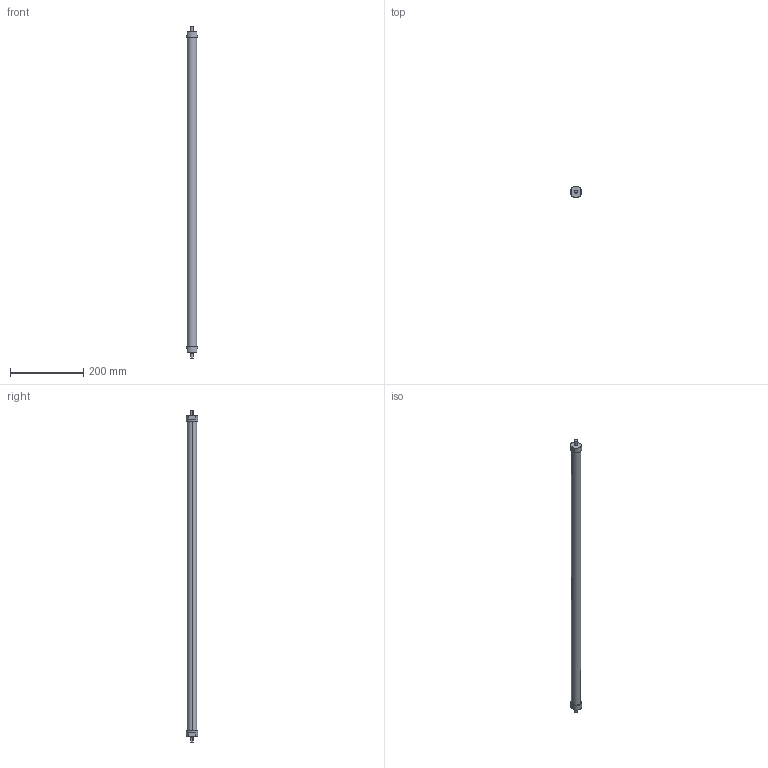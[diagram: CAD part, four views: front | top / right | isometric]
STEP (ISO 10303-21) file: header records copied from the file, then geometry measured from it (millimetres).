
FILE_DESCRIPTION(('STEP AP214'),'1');
FILE_NAME('ETT-R050N884.stp','2015-07-20T08:02:22',(' '),(' '),'Spatial InterOp 3D',' ',' ');
FILE_SCHEMA(('automotive_design'));
Length unit declared in the file: metre
Products named in the file (3): 1; 3; 2
Bounding box: 31 x 31 x 904 mm (x, y, z)
Volume: 437303.6 mm3; surface area: 72514.9 mm2
Topology: 1 solids, 7 shells, 30 faces, 78 edges, 60 vertices
Faces by surface type: plane 16, cylinder 14
Entity records: 1265 total; most frequent: DIRECTION 188, CARTESIAN_POINT 171, ORIENTED_EDGE 132, EDGE_CURVE 78, AXIS2_PLACEMENT_3D 77, VERTEX_POINT 60, CIRCLE 44, EDGE_LOOP 36
